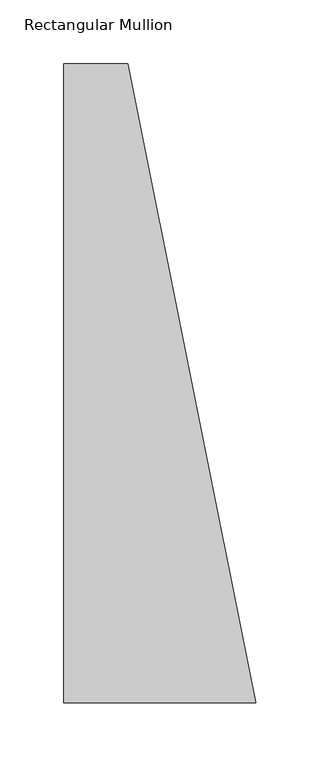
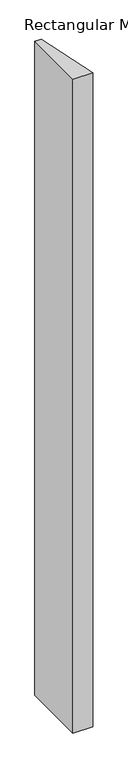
"""IFC4 building model written with IfcOpenShell, lengths in millimetres: member geometry, Rectangular Mullion : 500(350+150)x150x50mm."""

from ifc_helpers import new_model, si_unit, frame, origin, place, context, project, spatial, polyline, outline, extrude, source, transform, mapped, element, save


def rectangular_mullion_194352bb(model_context):
    return source(origin(), model_context, "Body", "SweptSolid", [
        extrude(outline(polyline([(-150.0, 150.0), (-100.0, 150.0), (0.0, -350.0), (-150.0, -350.0), (-150.0, 150.0)])), frame((0.0, 0.0, -5250.0), z_axis=(0.0, 0.0, 1.0), x_axis=(1.0, 0.0, 0.0)), (0.0, 0.0, 1.0), 5250.0),
    ])


if __name__ == "__main__":
    model = new_model("IFC4")
    model_context = context("Model", 3, world=origin())
    ifc_project = project(units=[si_unit("LENGTHUNIT", "METRE", prefix="MILLI")], contexts=[model_context])
    site = spatial("IfcSite", under=ifc_project)
    building = spatial("IfcBuilding", under=site)
    placement = place(None, origin())
    rectangular_mullion_shape = rectangular_mullion_194352bb(model_context)
    element("IfcMember", 1, ObjectType="Rectangular Mullion : 500(350+150)x150x50mm", at=placement, inside=building, context=model_context, shape_type="MappedRepresentation", body=[
        mapped(rectangular_mullion_shape, transform((0.0, 0.0, 0.0), x_axis=(1.0, 0.0, 0.0), y_axis=(0.0, 1.0, 0.0), z_axis=(0.0, 0.0, 1.0))),
    ])
    save(model, "model.ifc")
